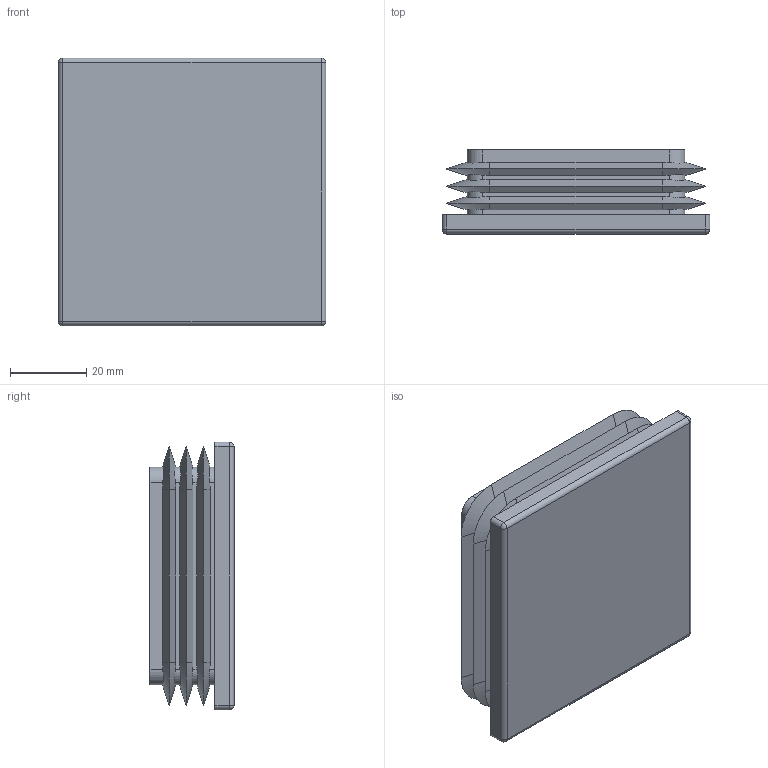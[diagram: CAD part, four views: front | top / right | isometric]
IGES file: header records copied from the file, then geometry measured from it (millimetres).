
Start section: SolidWorks IGES file using analytic representation for surfaces
Global section: file name: C:\HEMSIDA\cad\SLDPRT_2015\ifr\\ifr_70.igs; native system: SolidWorks 2015; preprocessor: SolidWorks 2015; author: Magnus; date: 150818.111807; units: millimetre
Bounding box: 70 x 22 x 70 mm (x, y, z)
Surface area: 23680.4 mm2 (no closed solid volume)
Topology: 0 solids, 0 shells, 104 faces, 808 edges, 804 vertices
Faces by surface type: revolution 52, bspline 52
